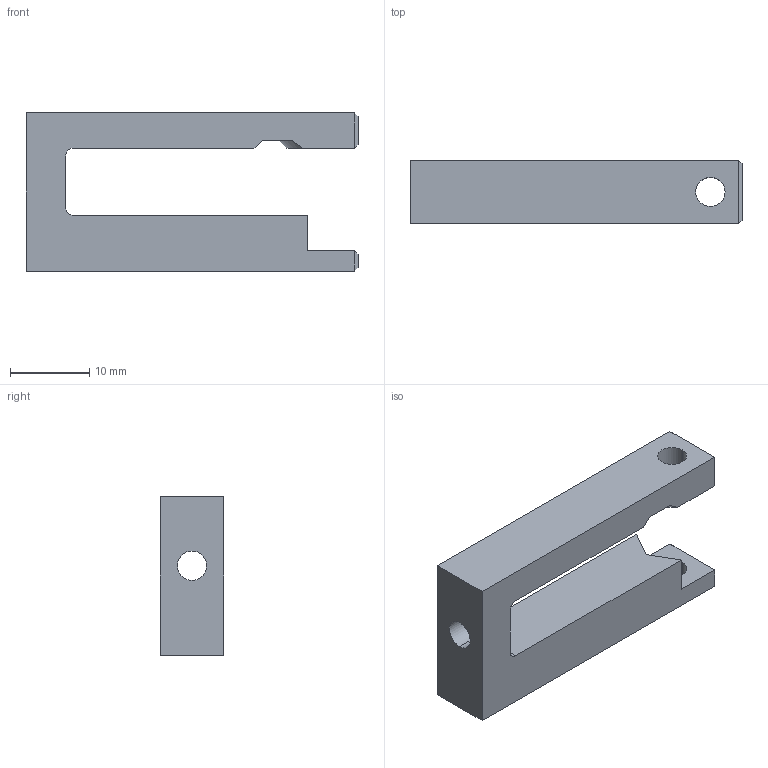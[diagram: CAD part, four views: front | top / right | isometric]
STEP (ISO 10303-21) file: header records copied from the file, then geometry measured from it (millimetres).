
FILE_DESCRIPTION (( 'STEP AP214' ), '1' );
FILE_NAME ('um2feeder_arm.STEP', '2014-10-26T06:40:24', ( 'Frank' ), ( '' ), 'SwSTEP 2.0', 'SolidWorks 2013', '' );
FILE_SCHEMA (( 'AUTOMOTIVE_DESIGN' ));
Length unit declared in the file: millimetre
Products named in the file (1): um2feeder_arm
Bounding box: 42 x 8 x 20 mm (x, y, z)
Volume: 3769.1 mm3; surface area: 2635.8 mm2
Topology: 1 solids, 1 shells, 36 faces, 92 edges, 58 vertices
Faces by surface type: plane 23, cylinder 8, cone 5
Entity records: 1132 total; most frequent: CARTESIAN_POINT 199, DIRECTION 186, ORIENTED_EDGE 184, EDGE_CURVE 92, VECTOR 64, LINE 64, AXIS2_PLACEMENT_3D 61, VERTEX_POINT 58
